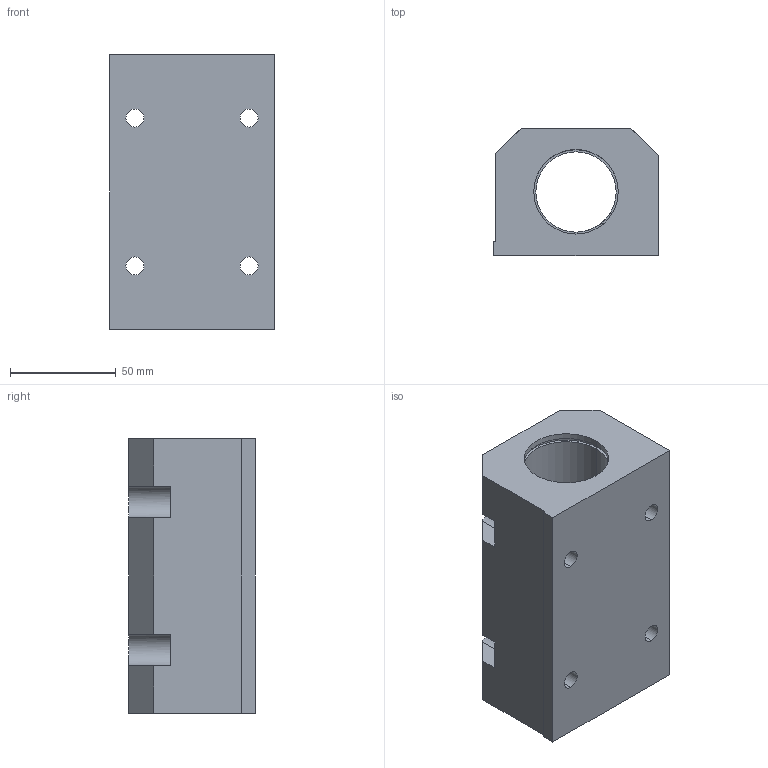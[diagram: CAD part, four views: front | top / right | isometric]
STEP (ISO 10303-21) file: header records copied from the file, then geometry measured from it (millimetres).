
FILE_DESCRIPTION (( 'STEP AP214' ), '1' );
FILE_NAME ('KTG85-I-25.step', '2020-03-04T13:31:00', ( '' ), ( '' ), 'SwSTEP 2.0', 'SolidWorks 2019', '' );
FILE_SCHEMA (( 'AUTOMOTIVE_DESIGN' ));
Length unit declared in the file: millimetre
Products named in the file (1): KTG85-I-25
Bounding box: 78 x 60 x 130 mm (x, y, z)
Volume: 391742.1 mm3; surface area: 64233.5 mm2
Topology: 1 solids, 1 shells, 64 faces, 164 edges, 108 vertices
Faces by surface type: plane 32, cylinder 30, cone 2
Entity records: 2174 total; most frequent: CARTESIAN_POINT 417, DIRECTION 342, ORIENTED_EDGE 328, EDGE_CURVE 164, AXIS2_PLACEMENT_3D 123, VERTEX_POINT 108, VECTOR 96, LINE 96
